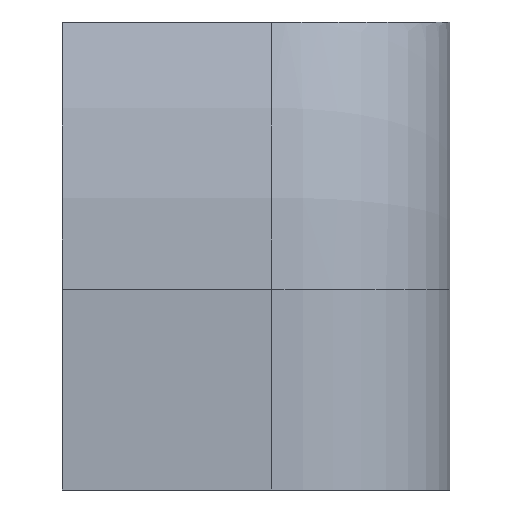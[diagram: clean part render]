
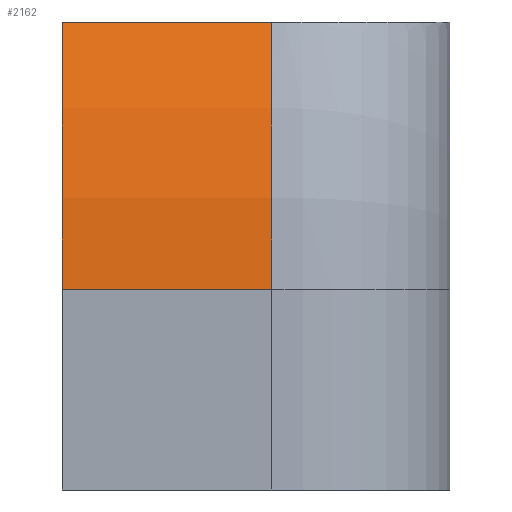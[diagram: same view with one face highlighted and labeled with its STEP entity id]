
A CAD part, left-side view. The second image highlights one B-rep face of the part: STEP entity #2162.
In plain terms, the highlighted cylindrical face has radius 28 mm (diameter 56 mm), a partial arc.
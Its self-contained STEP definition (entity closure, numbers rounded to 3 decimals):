
#57 = VERTEX_POINT('',#58);
#58 = CARTESIAN_POINT('',(-44.,-5.2,47.));
#72 = TOROIDAL_SURFACE('',#73,20.,8.);
#73 = AXIS2_PLACEMENT_3D('',#74,#75,#76);
#74 = CARTESIAN_POINT('',(-16.,-5.2,47.));
#75 = DIRECTION('',(0.,1.,0.));
#76 = DIRECTION('',(0.,0.,1.));
#99 = PLANE('',#100);
#100 = AXIS2_PLACEMENT_3D('',#101,#102,#103);
#101 = CARTESIAN_POINT('',(-44.,-13.2,-75.));
#102 = DIRECTION('',(1.,0.,0.));
#103 = DIRECTION('',(0.,0.,1.));
#210 = PLANE('',#211);
#211 = AXIS2_PLACEMENT_3D('',#212,#213,#214);
#212 = CARTESIAN_POINT('',(-46.,-15.,59.));
#213 = DIRECTION('',(0.,0.,1.));
#214 = DIRECTION('',(1.,0.,0.));
#297 = PLANE('',#298);
#298 = AXIS2_PLACEMENT_3D('',#299,#300,#301);
#299 = CARTESIAN_POINT('',(0.,4.2,0.));
#300 = DIRECTION('',(0.,1.,0.));
#301 = DIRECTION('',(0.,-0.,1.));
#670 = EDGE_CURVE('',#57,#671,#673,.T.);
#671 = VERTEX_POINT('',#672);
#672 = CARTESIAN_POINT('',(-44.,4.2,47.));
#673 = SURFACE_CURVE('',#674,(#678,#685),.PCURVE_S1.);
#674 = LINE('',#675,#676);
#675 = CARTESIAN_POINT('',(-44.,-13.2,47.));
#676 = VECTOR('',#677,1.);
#677 = DIRECTION('',(0.,1.,0.));
#678 = PCURVE('',#99,#679);
#679 = DEFINITIONAL_REPRESENTATION('',(#680),#684);
#680 = LINE('',#681,#682);
#681 = CARTESIAN_POINT('',(122.,0.));
#682 = VECTOR('',#683,1.);
#683 = DIRECTION('',(0.,-1.));
#684 = ( GEOMETRIC_REPRESENTATION_CONTEXT(2) 
PARAMETRIC_REPRESENTATION_CONTEXT() REPRESENTATION_CONTEXT('2D SPACE',''
  ) );
#685 = PCURVE('',#686,#691);
#686 = CYLINDRICAL_SURFACE('',#687,28.);
#687 = AXIS2_PLACEMENT_3D('',#688,#689,#690);
#688 = CARTESIAN_POINT('',(-16.,-13.2,47.));
#689 = DIRECTION('',(0.,1.,0.));
#690 = DIRECTION('',(-1.,0.,0.));
#691 = DEFINITIONAL_REPRESENTATION('',(#692),#696);
#692 = LINE('',#693,#694);
#693 = CARTESIAN_POINT('',(0.,0.));
#694 = VECTOR('',#695,1.);
#695 = DIRECTION('',(0.,1.));
#696 = ( GEOMETRIC_REPRESENTATION_CONTEXT(2) 
PARAMETRIC_REPRESENTATION_CONTEXT() REPRESENTATION_CONTEXT('2D SPACE',''
  ) );
#725 = VERTEX_POINT('',#726);
#726 = CARTESIAN_POINT('',(-41.298,-5.2,59.));
#816 = EDGE_CURVE('',#725,#57,#817,.T.);
#817 = SURFACE_CURVE('',#818,(#823,#830),.PCURVE_S1.);
#818 = CIRCLE('',#819,28.);
#819 = AXIS2_PLACEMENT_3D('',#820,#821,#822);
#820 = CARTESIAN_POINT('',(-16.,-5.2,47.));
#821 = DIRECTION('',(0.,-1.,0.));
#822 = DIRECTION('',(0.,0.,1.));
#823 = PCURVE('',#72,#824);
#824 = DEFINITIONAL_REPRESENTATION('',(#825),#829);
#825 = LINE('',#826,#827);
#826 = CARTESIAN_POINT('',(6.283,6.283));
#827 = VECTOR('',#828,1.);
#828 = DIRECTION('',(-1.,0.));
#829 = ( GEOMETRIC_REPRESENTATION_CONTEXT(2) 
PARAMETRIC_REPRESENTATION_CONTEXT() REPRESENTATION_CONTEXT('2D SPACE',''
  ) );
#830 = PCURVE('',#686,#831);
#831 = DEFINITIONAL_REPRESENTATION('',(#832),#836);
#832 = LINE('',#833,#834);
#833 = CARTESIAN_POINT('',(1.571,8.));
#834 = VECTOR('',#835,1.);
#835 = DIRECTION('',(-1.,-0.));
#836 = ( GEOMETRIC_REPRESENTATION_CONTEXT(2) 
PARAMETRIC_REPRESENTATION_CONTEXT() REPRESENTATION_CONTEXT('2D SPACE',''
  ) );
#941 = VERTEX_POINT('',#942);
#942 = CARTESIAN_POINT('',(-41.298,4.2,59.));
#965 = EDGE_CURVE('',#725,#941,#966,.T.);
#966 = SURFACE_CURVE('',#967,(#971,#977),.PCURVE_S1.);
#967 = LINE('',#968,#969);
#968 = CARTESIAN_POINT('',(-41.298,-13.2,59.));
#969 = VECTOR('',#970,1.);
#970 = DIRECTION('',(0.,1.,0.));
#971 = PCURVE('',#210,#972);
#972 = DEFINITIONAL_REPRESENTATION('',(#973),#976);
#973 = B_SPLINE_CURVE_WITH_KNOTS('',1,(#974,#975),.UNSPECIFIED.,.F.,.F.,
  (2,2),(8.,17.4),.PIECEWISE_BEZIER_KNOTS.);
#974 = CARTESIAN_POINT('',(4.702,9.8));
#975 = CARTESIAN_POINT('',(4.702,19.2));
#976 = ( GEOMETRIC_REPRESENTATION_CONTEXT(2) 
PARAMETRIC_REPRESENTATION_CONTEXT() REPRESENTATION_CONTEXT('2D SPACE',''
  ) );
#977 = PCURVE('',#686,#978);
#978 = DEFINITIONAL_REPRESENTATION('',(#979),#982);
#979 = B_SPLINE_CURVE_WITH_KNOTS('',1,(#980,#981),.UNSPECIFIED.,.F.,.F.,
  (2,2),(8.,17.4),.PIECEWISE_BEZIER_KNOTS.);
#980 = CARTESIAN_POINT('',(0.443,8.));
#981 = CARTESIAN_POINT('',(0.443,17.4));
#982 = ( GEOMETRIC_REPRESENTATION_CONTEXT(2) 
PARAMETRIC_REPRESENTATION_CONTEXT() REPRESENTATION_CONTEXT('2D SPACE',''
  ) );
#1368 = EDGE_CURVE('',#941,#671,#1369,.T.);
#1369 = SURFACE_CURVE('',#1370,(#1375,#1386),.PCURVE_S1.);
#1370 = CIRCLE('',#1371,28.);
#1371 = AXIS2_PLACEMENT_3D('',#1372,#1373,#1374);
#1372 = CARTESIAN_POINT('',(-16.,4.2,47.));
#1373 = DIRECTION('',(0.,-1.,0.));
#1374 = DIRECTION('',(0.,0.,1.));
#1375 = PCURVE('',#297,#1376);
#1376 = DEFINITIONAL_REPRESENTATION('',(#1377),#1385);
#1377 = ( BOUNDED_CURVE() B_SPLINE_CURVE(2,(#1378,#1379,#1380,#1381,
#1382,#1383,#1384),.UNSPECIFIED.,.T.,.F.) B_SPLINE_CURVE_WITH_KNOTS((1,2
    ,2,2,2,1),(-2.094,0.,2.094,4.189,
6.283,8.378),.UNSPECIFIED.) CURVE() 
GEOMETRIC_REPRESENTATION_ITEM() RATIONAL_B_SPLINE_CURVE((1.,0.5,1.,0.5,
1.,0.5,1.)) REPRESENTATION_ITEM('') );
#1378 = CARTESIAN_POINT('',(75.,-16.));
#1379 = CARTESIAN_POINT('',(75.,-64.497));
#1380 = CARTESIAN_POINT('',(33.,-40.249));
#1381 = CARTESIAN_POINT('',(-9.,-16.));
#1382 = CARTESIAN_POINT('',(33.,8.249));
#1383 = CARTESIAN_POINT('',(75.,32.497));
#1384 = CARTESIAN_POINT('',(75.,-16.));
#1385 = ( GEOMETRIC_REPRESENTATION_CONTEXT(2) 
PARAMETRIC_REPRESENTATION_CONTEXT() REPRESENTATION_CONTEXT('2D SPACE',''
  ) );
#1386 = PCURVE('',#686,#1387);
#1387 = DEFINITIONAL_REPRESENTATION('',(#1388),#1392);
#1388 = LINE('',#1389,#1390);
#1389 = CARTESIAN_POINT('',(1.571,17.4));
#1390 = VECTOR('',#1391,1.);
#1391 = DIRECTION('',(-1.,-0.));
#1392 = ( GEOMETRIC_REPRESENTATION_CONTEXT(2) 
PARAMETRIC_REPRESENTATION_CONTEXT() REPRESENTATION_CONTEXT('2D SPACE',''
  ) );
#2162 = ADVANCED_FACE('',(#2163),#686,.T.);
#2163 = FACE_BOUND('',#2164,.T.);
#2164 = EDGE_LOOP('',(#2165,#2166,#2167,#2168));
#2165 = ORIENTED_EDGE('',*,*,#965,.T.);
#2166 = ORIENTED_EDGE('',*,*,#1368,.T.);
#2167 = ORIENTED_EDGE('',*,*,#670,.F.);
#2168 = ORIENTED_EDGE('',*,*,#816,.F.);
